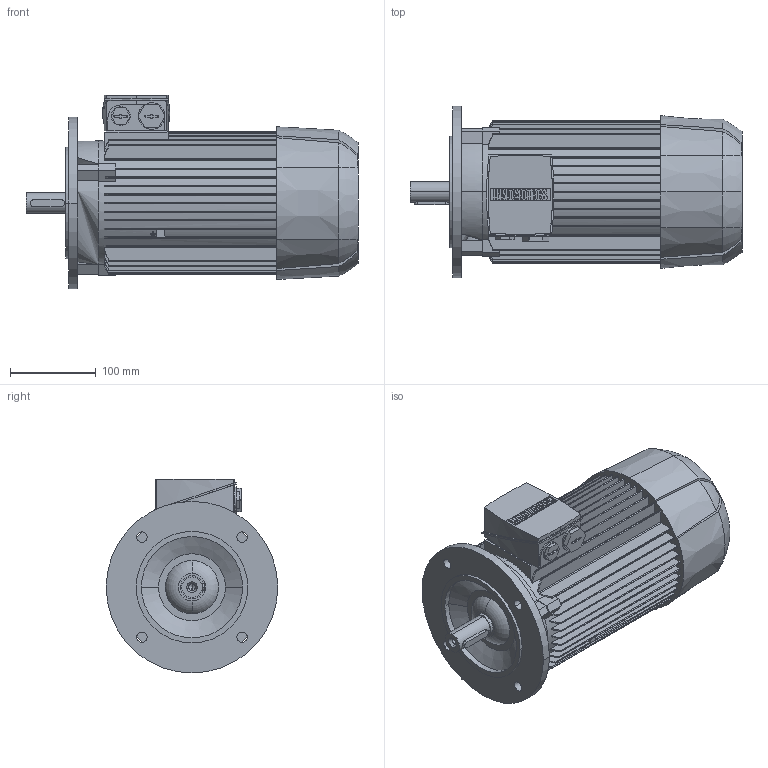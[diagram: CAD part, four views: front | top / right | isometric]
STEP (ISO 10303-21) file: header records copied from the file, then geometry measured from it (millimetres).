
FILE_DESCRIPTION(('STEP AP214'),'1');
FILE_NAME('cctmp_C40067FD-E406-4C3E-A18E-1B8CCA936F43_2026_05_12_10_06_25_0394_1764..stp','2026-05-12T08:06:25',('KiM GmbH'),('CADClick - www.CADClick.com'),'Spatial InterOp 3D',' ','unknown authorization');
FILE_SCHEMA(('AUTOMOTIVE_DESIGN'));
Length unit declared in the file: millimetre
Products named in the file (1): 2026_05_12_10_06_25_0394
Bounding box: 387 x 200 x 226 mm (x, y, z)
Volume: 6750861.5 mm3; surface area: 480235.6 mm2
Topology: 1 solids, 1 shells, 662 faces, 1867 edges, 1228 vertices
Faces by surface type: plane 415, cylinder 171, torus 56, cone 20
Entity records: 27833 total; most frequent: CARTESIAN_POINT 5161, ORIENTED_EDGE 3706, DIRECTION 3608, EDGE_CURVE 1853, VERTEX_POINT 1228, AXIS2_PLACEMENT_3D 1226, LINE 1156, VECTOR 1156
